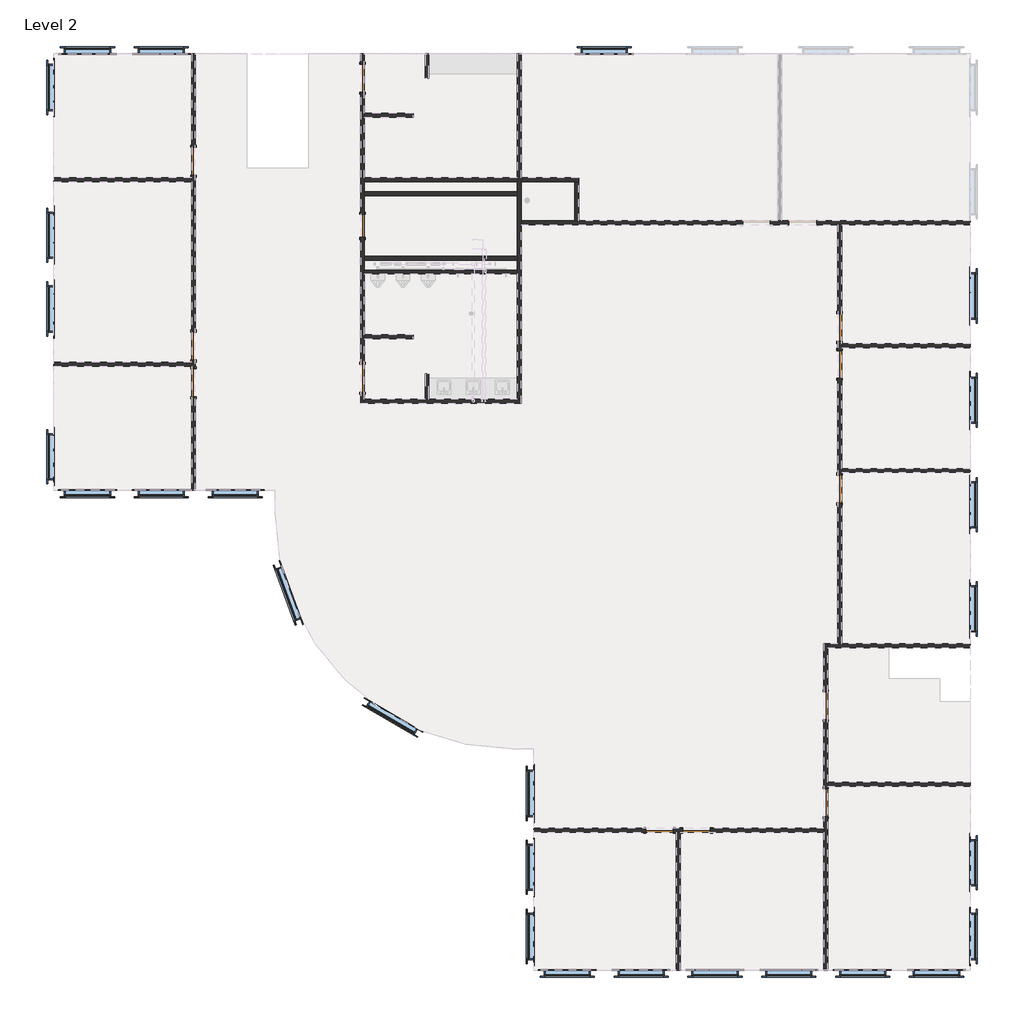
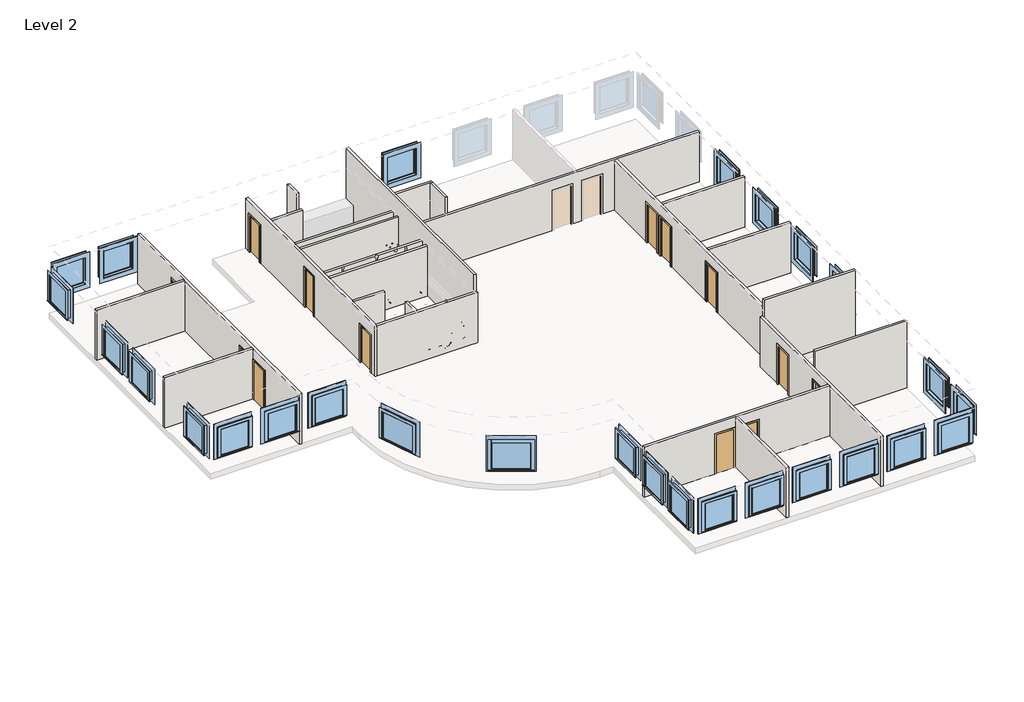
# One storey, part 1 of 5: 27 windows, 25 walls, 13 doors.
"""IFC4 building model written with IfcOpenShell, lengths in millimetres."""

from ifc_helpers import new_model, si_unit, frame, origin, place, context, project, spatial, polyline, outline, extrude, faceted_brep, transform, mapped, element, save
from components import door_e36758a9, door_5c18bfee, door_bc81e0a2, door_a1797ceb, door_a3eb833a, fixed_51c72f20, fixed_edddcce4, fixed_fbb7a90c

model = new_model("IFC4")

# Units and contexts
model_context = context("Model", 3, world=origin())
ifc_project = project(units=[si_unit("LENGTHUNIT", "METRE", prefix="MILLI")], contexts=[model_context])

# Site, building, storey
site = spatial("IfcSite", under=ifc_project)
building = spatial("IfcBuilding", under=site)
storey = spatial("IfcBuildingStorey", under=building, Name="Level 2", Elevation=3657.6)

# Doors
placement = place(None, origin())
door_shape = door_e36758a9(model_context)
element("IfcDoor", 1, ObjectType="Sgl Flush : 30\" x 84\"", at=placement, inside=storey, context=model_context, shape_type="MappedRepresentation", body=[
    mapped(door_shape, transform((5292.7157496, 9301.6099268, 3657.6), x_axis=(0.0, 1.0, 0.0), y_axis=(-1.0, 0.0, 0.0), z_axis=(0.0, 0.0, 1.0))),
])
door_2_shape = door_5c18bfee(model_context)
element("IfcDoor", 2, ObjectType="Sgl Flush : 36\" x 80\"", at=placement, inside=storey, context=model_context, shape_type="MappedRepresentation", body=[
    mapped(door_2_shape, transform((5292.7157496, 14178.4099268, 3657.6), x_axis=(0.0, 1.0, 0.0), y_axis=(-1.0, 0.0, 0.0), z_axis=(0.0, 0.0, 1.0))),
])
door_3_shape = door_bc81e0a2(model_context)
element("IfcDoor", 3, ObjectType="Sgl Flush : 36\" x 80\"", at=placement, inside=storey, context=model_context, shape_type="MappedRepresentation", body=[
    mapped(door_3_shape, transform((5292.7157496, 4272.4099268, 3657.6), x_axis=(0.0, -1.0, 0.0), y_axis=(1.0, 0.0, 0.0), z_axis=(0.0, 0.0, 1.0))),
])
door_4_shape = door_a1797ceb(model_context)
element("IfcDoor", 4, ObjectType="Sgl Flush : 36\" x 84\"", at=placement, inside=storey, context=model_context, shape_type="MappedRepresentation", body=[
    mapped(door_4_shape, transform((-284.1717504, 4120.0099268, 3657.6), x_axis=(0.0, 1.0, 0.0), y_axis=(-1.0, 0.0, 0.0), z_axis=(0.0, 0.0, 1.0))),
])
element("IfcDoor", 5, ObjectType="Sgl Flush : 36\" x 84\"", at=placement, inside=storey, context=model_context, shape_type="MappedRepresentation", body=[
    mapped(door_4_shape, transform((16329.0157496, -10662.7900732, 3657.6), x_axis=(-1.0, 0.0, 0.0), y_axis=(0.0, -1.0, 0.0), z_axis=(0.0, 0.0, 1.0))),
])
element("IfcDoor", 6, ObjectType="Sgl Flush : 36\" x 84\"", at=placement, inside=storey, context=model_context, shape_type="MappedRepresentation", body=[
    mapped(door_4_shape, transform((20596.2157496, -6547.9900732, 3657.6), x_axis=(0.0, -1.0, 0.0), y_axis=(1.0, 0.0, 0.0), z_axis=(0.0, 0.0, 1.0))),
])
element("IfcDoor", 7, ObjectType="Sgl Flush : 36\" x 84\"", at=placement, inside=storey, context=model_context, shape_type="MappedRepresentation", body=[
    mapped(door_4_shape, transform((21053.4157496, 5948.8099268, 3657.6), x_axis=(0.0, -1.0, 0.0), y_axis=(1.0, 0.0, 0.0), z_axis=(0.0, 0.0, 1.0))),
])
door_5_shape = door_a3eb833a(model_context)
element("IfcDoor", 8, ObjectType="Sgl Flush : 36\" x 84\"", at=placement, inside=storey, context=model_context, shape_type="MappedRepresentation", body=[
    mapped(door_5_shape, transform((-284.1717504, 11435.2099268, 3657.6), x_axis=(0.0, -1.0, 0.0), y_axis=(1.0, 0.0, 0.0), z_axis=(0.0, 0.0, 1.0))),
])
element("IfcDoor", 9, ObjectType="Sgl Flush : 36\" x 84\"", at=placement, inside=storey, context=model_context, shape_type="MappedRepresentation", body=[
    mapped(door_5_shape, transform((-284.1717504, 5339.2099268, 3657.6), x_axis=(0.0, -1.0, 0.0), y_axis=(1.0, 0.0, 0.0), z_axis=(0.0, 0.0, 1.0))),
])
element("IfcDoor", 10, ObjectType="Sgl Flush : 36\" x 84\"", at=placement, inside=storey, context=model_context, shape_type="MappedRepresentation", body=[
    mapped(door_5_shape, transform((15109.8157496, -10662.7900732, 3657.6), x_axis=(1.0, 0.0, 0.0), y_axis=(0.0, 1.0, 0.0), z_axis=(0.0, 0.0, 1.0))),
])
element("IfcDoor", 11, ObjectType="Sgl Flush : 36\" x 84\"", at=placement, inside=storey, context=model_context, shape_type="MappedRepresentation", body=[
    mapped(door_5_shape, transform((20596.2157496, -9748.3900732, 3657.6), x_axis=(0.0, 1.0, 0.0), y_axis=(-1.0, 0.0, 0.0), z_axis=(0.0, 0.0, 1.0))),
])
element("IfcDoor", 12, ObjectType="Sgl Flush : 36\" x 84\"", at=placement, inside=storey, context=model_context, shape_type="MappedRepresentation", body=[
    mapped(door_5_shape, transform((21053.4157496, 614.8099268, 3657.6), x_axis=(0.0, 1.0, 0.0), y_axis=(-1.0, 0.0, 0.0), z_axis=(0.0, 0.0, 1.0))),
])
element("IfcDoor", 13, ObjectType="Sgl Flush : 36\" x 84\"", at=placement, inside=storey, context=model_context, shape_type="MappedRepresentation", body=[
    mapped(door_5_shape, transform((21053.4157496, 4729.6099268, 3657.6), x_axis=(0.0, 1.0, 0.0), y_axis=(-1.0, 0.0, 0.0), z_axis=(0.0, 0.0, 1.0))),
])

# Walls
element("IfcWall", 14, ObjectType="Interior - 5\" Partition (2-hr)", at=placement, inside=storey, context=model_context, shape_type="Brep", body=[
    faceted_brep([(-347.6717504, 4882.0099268, 3657.6), (-347.6717504, 4793.1099268, 3657.6), (-347.6717504, 4666.1099268, 3657.6), (-347.6717504, 4577.2099268, 3657.6), (-347.6717504, 4577.2099268, 5791.2), (-347.6717504, 3662.8099268, 5791.2), (-347.6717504, 3662.8099268, 3657.6), (-347.6717504, 564.0099268, 3657.6), (-347.6717504, 564.0099268, 6400.8), (-347.6717504, 4666.1099268, 6400.8), (-347.6717504, 4793.1099268, 6400.8), (-347.6717504, 10762.1099268, 6400.8), (-347.6717504, 10889.1099268, 6400.8), (-347.6717504, 14991.2099268, 6400.8), (-347.6717504, 14991.2099268, 3657.6), (-347.6717504, 11892.4099268, 3657.6), (-347.6717504, 11892.4099268, 5791.2), (-347.6717504, 10978.0099268, 5791.2), (-347.6717504, 10978.0099268, 3657.6), (-347.6717504, 10889.1099268, 3657.6), (-347.6717504, 10762.1099268, 3657.6), (-347.6717504, 5796.4099268, 3657.6), (-347.6717504, 5796.4099268, 5791.2), (-347.6717504, 4882.0099268, 5791.2), (-220.6717504, 4577.2099268, 5791.2), (-220.6717504, 4577.2099268, 3657.6), (-220.6717504, 4882.0099268, 3657.6), (-220.6717504, 4882.0099268, 5791.2), (-220.6717504, 5796.4099268, 5791.2), (-220.6717504, 5796.4099268, 3657.6), (-220.6717504, 10978.0099268, 3657.6), (-220.6717504, 10978.0099268, 5791.2), (-220.6717504, 11892.4099268, 5791.2), (-220.6717504, 11892.4099268, 3657.6), (-220.6717504, 14991.2099268, 3657.6), (-220.6717504, 14991.2099268, 6400.8), (-220.6717504, 564.0099268, 6400.8), (-220.6717504, 564.0099268, 3657.6), (-220.6717504, 3662.8099268, 3657.6), (-220.6717504, 3662.8099268, 5791.2)], [[[0, 1, 2, 3, 4, 5, 6, 7, 8, 9, 10, 11, 12, 13, 14, 15, 16, 17, 18, 19, 20, 21, 22, 23]], [[24, 25, 26, 27, 28, 29, 30, 31, 32, 33, 34, 35, 36, 37, 38, 39]], [[26, 25, 3, 2, 1, 0]], [[15, 14, 34, 33]], [[21, 20, 19, 18, 30, 29]], [[38, 37, 7, 6]], [[13, 12, 11, 10, 9, 8, 36, 35]], [[14, 13, 35, 34]], [[8, 7, 37, 36]], [[31, 30, 18, 17]], [[32, 31, 17, 16]], [[33, 32, 16, 15]], [[27, 26, 0, 23]], [[28, 27, 23, 22]], [[29, 28, 22, 21]], [[4, 3, 25, 24]], [[5, 4, 24, 39]], [[6, 5, 39, 38]]]),
])
element("IfcWall", 15, ObjectType="Interior - 5\" Partition (2-hr)", at=placement, inside=storey, context=model_context, shape_type="SweptSolid", body=[
    extrude(outline(polyline([(-4905.3842504, 10889.1099268), (-347.6717504, 10889.1099268), (-347.6717504, 10762.1099268), (-4905.3842504, 10762.1099268), (-4905.3842504, 10889.1099268)])), frame((0.0, 0.0, 3657.6), z_axis=(0.0, 0.0, 1.0), x_axis=(1.0, 0.0, 0.0)), (0.0, 0.0, 1.0), 2743.2),
])
element("IfcWall", 16, ObjectType="Interior - 5\" Partition (2-hr)", at=placement, inside=storey, context=model_context, shape_type="SweptSolid", body=[
    extrude(outline(polyline([(-4905.3842504, 4793.1099268), (-347.6717504, 4793.1099268), (-347.6717504, 4666.1099268), (-4905.3842504, 4666.1099268), (-4905.3842504, 4793.1099268)])), frame((0.0, 0.0, 3657.6), z_axis=(0.0, 0.0, 1.0), x_axis=(1.0, 0.0, 0.0)), (0.0, 0.0, 1.0), 2743.2),
])
element("IfcWall", 17, ObjectType="Interior - 5\" Partition (2-hr)", at=placement, inside=storey, context=model_context, shape_type="Brep", body=[
    faceted_brep([(5229.2157496, 3815.2099268, 5689.6), (5229.2157496, 3815.2099268, 3657.6), (5229.2157496, 3446.9099268, 3657.6), (5229.2157496, 3446.9099268, 6400.8), (5229.2157496, 14991.2099268, 6400.8), (5229.2157496, 14991.2099268, 3657.6), (5229.2157496, 14635.6099268, 3657.6), (5229.2157496, 14635.6099268, 5689.6), (5229.2157496, 13721.2099268, 5689.6), (5229.2157496, 13721.2099268, 3657.6), (5229.2157496, 9682.6099268, 3657.6), (5229.2157496, 9682.6099268, 5791.2), (5229.2157496, 8920.6099268, 5791.2), (5229.2157496, 8920.6099268, 3657.6), (5229.2157496, 4729.6099268, 3657.6), (5229.2157496, 4729.6099268, 5689.6), (5356.2157496, 3446.9099268, 3657.6), (5356.2157496, 3573.9099268, 3657.6), (5356.2157496, 3815.2099268, 3657.6), (5356.2157496, 3815.2099268, 5689.6), (5356.2157496, 4729.6099268, 5689.6), (5356.2157496, 4729.6099268, 3657.6), (5356.2157496, 5580.5099268, 3657.6), (5356.2157496, 5707.5099268, 3657.6), (5356.2157496, 7714.1099268, 3657.6), (5356.2157496, 7841.1099268, 3657.6), (5356.2157496, 8171.3099268, 3657.6), (5356.2157496, 8298.3099268, 3657.6), (5356.2157496, 8920.6099268, 3657.6), (5356.2157496, 8920.6099268, 5791.2), (5356.2157496, 9682.6099268, 5791.2), (5356.2157496, 9682.6099268, 3657.6), (5356.2157496, 10304.9099268, 3657.6), (5356.2157496, 10431.9099268, 3657.6), (5356.2157496, 10762.1099268, 3657.6), (5356.2157496, 10889.1099268, 3657.6), (5356.2157496, 12895.7099268, 3657.6), (5356.2157496, 13022.7099268, 3657.6), (5356.2157496, 13721.2099268, 3657.6), (5356.2157496, 13721.2099268, 5689.6), (5356.2157496, 14635.6099268, 5689.6), (5356.2157496, 14635.6099268, 3657.6), (5356.2157496, 14991.2099268, 3657.6), (5356.2157496, 14991.2099268, 6400.8), (5356.2157496, 13022.7099268, 6400.8), (5356.2157496, 12895.7099268, 6400.8), (5356.2157496, 10889.1099268, 6400.8), (5356.2157496, 10762.1099268, 6400.8), (5356.2157496, 10431.9099268, 6400.8), (5356.2157496, 10304.9099268, 6400.8), (5356.2157496, 8298.3099268, 6400.8), (5356.2157496, 8171.3099268, 6400.8), (5356.2157496, 7841.1099268, 6400.8), (5356.2157496, 7714.1099268, 6400.8), (5356.2157496, 5707.5099268, 6400.8), (5356.2157496, 5580.5099268, 6400.8), (5356.2157496, 3573.9099268, 6400.8), (5356.2157496, 3446.9099268, 6400.8)], [[[0, 1, 2, 3, 4, 5, 6, 7, 8, 9, 10, 11, 12, 13, 14, 15]], [[16, 17, 18, 19, 20, 21, 22, 23, 24, 25, 26, 27, 28, 29, 30, 31, 32, 33, 34, 35, 36, 37, 38, 39, 40, 41, 42, 43, 44, 45, 46, 47, 48, 49, 50, 51, 52, 53, 54, 55, 56, 57]], [[42, 41, 6, 5]], [[2, 1, 18, 17, 16]], [[38, 37, 36, 35, 34, 33, 32, 31, 10, 9]], [[14, 13, 28, 27, 26, 25, 24, 23, 22, 21]], [[4, 3, 57, 56, 55, 54, 53, 52, 51, 50, 49, 48, 47, 46, 45, 44, 43]], [[3, 2, 16, 57]], [[5, 4, 43, 42]], [[11, 10, 31, 30]], [[12, 11, 30, 29]], [[13, 12, 29, 28]], [[7, 6, 41, 40]], [[8, 7, 40, 39]], [[9, 8, 39, 38]], [[19, 18, 1, 0]], [[20, 19, 0, 15]], [[21, 20, 15, 14]]]),
])
element("IfcWall", 18, ObjectType="Interior - 5\" Partition (2-hr)", at=placement, inside=storey, context=model_context, shape_type="Brep", body=[
    faceted_brep([(5356.2157496, 3446.9099268, 3657.6), (10537.8157496, 3446.9099268, 3657.6), (10537.8157496, 3446.9099268, 6400.8), (5356.2157496, 3446.9099268, 6400.8), (5356.2157496, 3573.9099268, 3657.6), (5356.2157496, 3573.9099268, 6400.8), (7362.8157496, 3573.9099268, 6400.8), (7489.8157496, 3573.9099268, 6400.8), (10537.8157496, 3573.9099268, 6400.8), (10537.8157496, 3573.9099268, 3657.6), (10410.8157496, 3573.9099268, 3657.6), (7489.8157496, 3573.9099268, 3657.6), (7362.8157496, 3573.9099268, 3657.6)], [[[0, 1, 2, 3]], [[4, 5, 6, 7, 8, 9, 10, 11, 12]], [[1, 0, 4, 12, 11, 10, 9]], [[3, 2, 8, 7, 6, 5]], [[2, 1, 9, 8]], [[0, 3, 5, 4]]]),
])
element("IfcWall", 19, ObjectType="Interior - 5\" Partition (2-hr)", at=placement, inside=storey, context=model_context, shape_type="Brep", body=[
    faceted_brep([(10537.8157496, 3573.9099268, 3657.6), (10537.8157496, 9339.7099268, 3657.6), (10537.8157496, 9466.7099268, 3657.6), (10537.8157496, 10762.1099268, 3657.6), (10537.8157496, 10889.1099268, 3657.6), (10537.8157496, 14991.2099268, 3657.6), (10537.8157496, 14991.2099268, 7315.2), (10537.8157496, 10889.1099268, 7315.2), (10537.8157496, 10762.1099268, 7315.2), (10537.8157496, 3573.9099268, 7315.2), (10537.8157496, 3573.9099268, 6400.8), (10410.8157496, 3573.9099268, 3657.6), (10410.8157496, 3573.9099268, 7315.2), (10410.8157496, 14991.2099268, 7315.2), (10410.8157496, 14991.2099268, 3657.6), (10410.8157496, 10889.1099268, 3657.6), (10410.8157496, 10762.1099268, 3657.6), (10410.8157496, 10431.9099268, 3657.6), (10410.8157496, 10304.9099268, 3657.6), (10410.8157496, 8298.3099268, 3657.6), (10410.8157496, 8171.3099268, 3657.6), (10410.8157496, 7841.1099268, 3657.6), (10410.8157496, 7714.1099268, 3657.6)], [[[0, 1, 2, 3, 4, 5, 6, 7, 8, 9, 10]], [[11, 12, 13, 14, 15, 16, 17, 18, 19, 20, 21, 22]], [[5, 4, 3, 2, 1, 0, 11, 22, 21, 20, 19, 18, 17, 16, 15, 14]], [[9, 8, 7, 6, 13, 12]], [[0, 10, 9, 12, 11]], [[6, 5, 14, 13]]]),
])
element("IfcWall", 20, ObjectType="Interior - 5\" Partition (2-hr)", at=placement, inside=storey, context=model_context, shape_type="SweptSolid", body=[
    extrude(outline(polyline([(6969.1157496, 12895.7099268), (5356.2157496, 12895.7099268), (5356.2157496, 13022.7099268), (6969.1157496, 13022.7099268), (6969.1157496, 12895.7099268)])), frame((0.0, 0.0, 3657.6), z_axis=(0.0, 0.0, 1.0), x_axis=(1.0, 0.0, 0.0)), (0.0, 0.0, 1.0), 2743.2),
])
element("IfcWall", 21, ObjectType="Interior - 5\" Partition (2-hr)", at=placement, inside=storey, context=model_context, shape_type="SweptSolid", body=[
    extrude(outline(polyline([(6969.1157496, 5580.5099268), (5356.2157496, 5580.5099268), (5356.2157496, 5707.5099268), (6969.1157496, 5707.5099268), (6969.1157496, 5580.5099268)])), frame((0.0, 0.0, 3657.6), z_axis=(0.0, 0.0, 1.0), x_axis=(1.0, 0.0, 0.0)), (0.0, 0.0, 1.0), 2743.2),
])
element("IfcWall", 22, ObjectType="Interior - 5\" Partition (2-hr)", at=placement, inside=storey, context=model_context, shape_type="SweptSolid", body=[
    extrude(outline(polyline([(10410.8157496, 7714.1099268), (5356.2157496, 7714.1099268), (5356.2157496, 7841.1099268), (10410.8157496, 7841.1099268), (10410.8157496, 7714.1099268)])), frame((0.0, 0.0, 3657.6), z_axis=(0.0, 0.0, 1.0), x_axis=(1.0, 0.0, 0.0)), (0.0, 0.0, 1.0), 2743.2),
])
element("IfcWall", 23, ObjectType="Interior - 5\" Partition (2-hr)", at=placement, inside=storey, context=model_context, shape_type="SweptSolid", body=[
    extrude(outline(polyline([(7489.8157496, 4424.8099268), (7489.8157496, 3573.9099268), (7362.8157496, 3573.9099268), (7362.8157496, 4424.8099268), (7489.8157496, 4424.8099268)])), frame((0.0, 0.0, 3657.6), z_axis=(0.0, 0.0, 1.0), x_axis=(1.0, 0.0, 0.0)), (0.0, 0.0, 1.0), 2743.2),
])
element("IfcWall", 24, ObjectType="Interior - 5\" Partition (2-hr)", at=placement, inside=storey, context=model_context, shape_type="SweptSolid", body=[
    extrude(outline(polyline([(7362.8157496, 14178.4099268), (7362.8157496, 14991.2099268), (7489.8157496, 14991.2099268), (7489.8157496, 14178.4099268), (7362.8157496, 14178.4099268)])), frame((0.0, 0.0, 3657.6), z_axis=(0.0, 0.0, 1.0), x_axis=(1.0, 0.0, 0.0)), (0.0, 0.0, 1.0), 2743.2),
])
element("IfcWall", 25, ObjectType="Interior - 5\" Partition (2-hr)", at=placement, inside=storey, context=model_context, shape_type="SweptSolid", body=[
    extrude(outline(polyline([(10410.8157496, 10762.1099268), (5356.2157496, 10762.1099268), (5356.2157496, 10889.1099268), (10410.8157496, 10889.1099268), (10410.8157496, 10762.1099268)])), frame((0.0, 0.0, 3657.6), z_axis=(0.0, 0.0, 1.0), x_axis=(1.0, 0.0, 0.0)), (0.0, 0.0, 1.0), 2743.2),
])
element("IfcWall", 26, ObjectType="Interior - 5\" Partition (2-hr)", at=placement, inside=storey, context=model_context, shape_type="Brep", body=[
    faceted_brep([(18767.4157496, 9339.7099268, 5791.2), (18767.4157496, 9339.7099268, 3657.6), (19377.0157496, 9339.7099268, 3657.6), (19377.0157496, 9339.7099268, 5791.2), (20291.4157496, 9339.7099268, 5791.2), (20291.4157496, 9339.7099268, 3657.6), (20989.9157496, 9339.7099268, 3657.6), (21116.9157496, 9339.7099268, 3657.6), (25371.4157496, 9339.7099268, 3657.6), (25371.4157496, 9339.7099268, 6400.8), (21116.9157496, 9339.7099268, 6400.8), (20989.9157496, 9339.7099268, 6400.8), (10537.8157496, 9339.7099268, 6400.8), (10537.8157496, 9339.7099268, 3657.6), (17853.0157496, 9339.7099268, 3657.6), (17853.0157496, 9339.7099268, 5791.2), (19377.0157496, 9466.7099268, 3657.6), (19135.7157496, 9466.7099268, 3657.6), (19008.7157496, 9466.7099268, 3657.6), (18767.4157496, 9466.7099268, 3657.6), (18767.4157496, 9466.7099268, 5791.2), (17853.0157496, 9466.7099268, 5791.2), (17853.0157496, 9466.7099268, 3657.6), (12430.1157496, 9466.7099268, 3657.6), (12303.1157496, 9466.7099268, 3657.6), (10537.8157496, 9466.7099268, 3657.6), (10537.8157496, 9466.7099268, 6400.8), (19008.7157496, 9466.7099268, 6400.8), (19135.7157496, 9466.7099268, 6400.8), (25371.4157496, 9466.7099268, 6400.8), (25371.4157496, 9466.7099268, 3657.6), (20291.4157496, 9466.7099268, 3657.6), (20291.4157496, 9466.7099268, 5791.2), (19377.0157496, 9466.7099268, 5791.2)], [[[0, 1, 2, 3, 4, 5, 6, 7, 8, 9, 10, 11, 12, 13, 14, 15]], [[16, 17, 18, 19, 20, 21, 22, 23, 24, 25, 26, 27, 28, 29, 30, 31, 32, 33]], [[2, 1, 19, 18, 17, 16]], [[31, 30, 8, 7, 6, 5]], [[14, 13, 25, 24, 23, 22]], [[12, 11, 10, 9, 29, 28, 27, 26]], [[13, 12, 26, 25]], [[9, 8, 30, 29]], [[3, 2, 16, 33]], [[4, 3, 33, 32]], [[5, 4, 32, 31]], [[20, 19, 1, 0]], [[21, 20, 0, 15]], [[22, 21, 15, 14]]]),
])
element("IfcWall", 27, ObjectType="Interior - 5\" Partition (2-hr)", at=placement, inside=storey, context=model_context, shape_type="Brep", body=[
    faceted_brep([(20989.9157496, 5491.6099268, 5791.2), (20989.9157496, 5491.6099268, 3657.6), (20989.9157496, 5186.8099268, 3657.6), (20989.9157496, 5186.8099268, 5791.2), (20989.9157496, 4272.4099268, 5791.2), (20989.9157496, 4272.4099268, 3657.6), (20989.9157496, 1072.0099268, 3657.6), (20989.9157496, 1072.0099268, 5791.2), (20989.9157496, 157.6099268, 5791.2), (20989.9157496, 157.6099268, 3657.6), (20989.9157496, -4503.2900732, 3657.6), (20989.9157496, -4503.2900732, 6400.8), (20989.9157496, 9339.7099268, 6400.8), (20989.9157496, 9339.7099268, 3657.6), (20989.9157496, 6406.0099268, 3657.6), (20989.9157496, 6406.0099268, 5791.2), (21116.9157496, 5186.8099268, 3657.6), (21116.9157496, 5275.7099268, 3657.6), (21116.9157496, 5402.7099268, 3657.6), (21116.9157496, 5491.6099268, 3657.6), (21116.9157496, 5491.6099268, 5791.2), (21116.9157496, 6406.0099268, 5791.2), (21116.9157496, 6406.0099268, 3657.6), (21116.9157496, 9339.7099268, 3657.6), (21116.9157496, 9339.7099268, 6400.8), (21116.9157496, 5402.7099268, 6400.8), (21116.9157496, 5275.7099268, 6400.8), (21116.9157496, 1287.9099268, 6400.8), (21116.9157496, 1160.9099268, 6400.8), (21116.9157496, -4503.2900732, 6400.8), (21116.9157496, -4503.2900732, 3657.6), (21116.9157496, 157.6099268, 3657.6), (21116.9157496, 157.6099268, 5791.2), (21116.9157496, 1072.0099268, 5791.2), (21116.9157496, 1072.0099268, 3657.6), (21116.9157496, 1160.9099268, 3657.6), (21116.9157496, 1287.9099268, 3657.6), (21116.9157496, 4272.4099268, 3657.6), (21116.9157496, 4272.4099268, 5791.2), (21116.9157496, 5186.8099268, 5791.2)], [[[0, 1, 2, 3, 4, 5, 6, 7, 8, 9, 10, 11, 12, 13, 14, 15]], [[16, 17, 18, 19, 20, 21, 22, 23, 24, 25, 26, 27, 28, 29, 30, 31, 32, 33, 34, 35, 36, 37, 38, 39]], [[2, 1, 19, 18, 17, 16]], [[31, 30, 10, 9]], [[37, 36, 35, 34, 6, 5]], [[14, 13, 23, 22]], [[12, 11, 29, 28, 27, 26, 25, 24]], [[13, 12, 24, 23]], [[11, 10, 30, 29]], [[7, 6, 34, 33]], [[8, 7, 33, 32]], [[9, 8, 32, 31]], [[3, 2, 16, 39]], [[4, 3, 39, 38]], [[5, 4, 38, 37]], [[20, 19, 1, 0]], [[21, 20, 0, 15]], [[22, 21, 15, 14]]]),
])
element("IfcWall", 28, ObjectType="Interior - 5\" Partition (2-hr)", at=placement, inside=storey, context=model_context, shape_type="SweptSolid", body=[
    extrude(outline(polyline([(25371.4157496, 5275.7099268), (21116.9157496, 5275.7099268), (21116.9157496, 5402.7099268), (25371.4157496, 5402.7099268), (25371.4157496, 5275.7099268)])), frame((0.0, 0.0, 3657.6), z_axis=(0.0, 0.0, 1.0), x_axis=(1.0, 0.0, 0.0)), (0.0, 0.0, 1.0), 2743.2),
])
element("IfcWall", 29, ObjectType="Interior - 5\" Partition (2-hr)", at=placement, inside=storey, context=model_context, shape_type="SweptSolid", body=[
    extrude(outline(polyline([(25371.4157496, 1160.9099268), (21116.9157496, 1160.9099268), (21116.9157496, 1287.9099268), (25371.4157496, 1287.9099268), (25371.4157496, 1160.9099268)])), frame((0.0, 0.0, 3657.6), z_axis=(0.0, 0.0, 1.0), x_axis=(1.0, 0.0, 0.0)), (0.0, 0.0, 1.0), 2743.2),
])
element("IfcWall", 30, ObjectType="Interior - 5\" Partition (2-hr)", at=placement, inside=storey, context=model_context, shape_type="Brep", body=[
    faceted_brep([(20659.7157496, -4630.2900732, 3657.6), (25371.4157496, -4630.2900732, 3657.6), (25371.4157496, -4630.2900732, 7315.2), (20659.7157496, -4630.2900732, 7315.2), (20659.7157496, -4503.2900732, 3657.6), (20659.7157496, -4503.2900732, 6400.8), (20659.7157496, -4503.2900732, 7315.2), (25371.4157496, -4503.2900732, 7315.2), (25371.4157496, -4503.2900732, 3657.6), (21116.9157496, -4503.2900732, 3657.6), (20989.9157496, -4503.2900732, 3657.6)], [[[0, 1, 2, 3]], [[4, 5, 6, 7, 8, 9, 10]], [[1, 0, 4, 10, 9, 8]], [[3, 2, 7, 6]], [[2, 1, 8, 7]], [[0, 3, 6, 5, 4]]]),
])
element("IfcWall", 31, ObjectType="Interior - 5\" Partition (2-hr)", at=placement, inside=storey, context=model_context, shape_type="SweptSolid", body=[
    extrude(outline(polyline([(25371.4157496, -9202.2900732), (20659.7157496, -9202.2900732), (20659.7157496, -9075.2900732), (25371.4157496, -9075.2900732), (25371.4157496, -9202.2900732)])), frame((0.0, 0.0, 3657.6), z_axis=(0.0, 0.0, 1.0), x_axis=(1.0, 0.0, 0.0)), (0.0, 0.0, 1.0), 3657.6),
])
element("IfcWall", 32, ObjectType="Interior - 5\" Partition (2-hr)", at=placement, inside=storey, context=model_context, shape_type="Brep", body=[
    faceted_brep([(20532.7157496, -7005.1900732, 5791.2), (20532.7157496, -7005.1900732, 3657.6), (20532.7157496, -9291.1900732, 3657.6), (20532.7157496, -9291.1900732, 5791.2), (20532.7157496, -10205.5900732, 5791.2), (20532.7157496, -10205.5900732, 3657.6), (20532.7157496, -10599.2900732, 3657.6), (20532.7157496, -10726.2900732, 3657.6), (20532.7157496, -15285.5900732, 3657.6), (20532.7157496, -15285.5900732, 6400.8), (20532.7157496, -10726.2900732, 6400.8), (20532.7157496, -10599.2900732, 6400.8), (20532.7157496, -4503.2900732, 6400.8), (20532.7157496, -4503.2900732, 3657.6), (20532.7157496, -6090.7900732, 3657.6), (20532.7157496, -6090.7900732, 5791.2), (20659.7157496, -9291.1900732, 3657.6), (20659.7157496, -9202.2900732, 3657.6), (20659.7157496, -9075.2900732, 3657.6), (20659.7157496, -7005.1900732, 3657.6), (20659.7157496, -7005.1900732, 5791.2), (20659.7157496, -6090.7900732, 5791.2), (20659.7157496, -6090.7900732, 3657.6), (20659.7157496, -4630.2900732, 3657.6), (20659.7157496, -4503.2900732, 3657.6), (20659.7157496, -4503.2900732, 6400.8), (20659.7157496, -15285.5900732, 6400.8), (20659.7157496, -15285.5900732, 3657.6), (20659.7157496, -10205.5900732, 3657.6), (20659.7157496, -10205.5900732, 5791.2), (20659.7157496, -9291.1900732, 5791.2)], [[[0, 1, 2, 3, 4, 5, 6, 7, 8, 9, 10, 11, 12, 13, 14, 15]], [[16, 17, 18, 19, 20, 21, 22, 23, 24, 25, 26, 27, 28, 29, 30]], [[2, 1, 19, 18, 17, 16]], [[28, 27, 8, 7, 6, 5]], [[14, 13, 24, 23, 22]], [[12, 11, 10, 9, 26, 25]], [[13, 12, 25, 24]], [[9, 8, 27, 26]], [[3, 2, 16, 30]], [[4, 3, 30, 29]], [[5, 4, 29, 28]], [[20, 19, 1, 0]], [[21, 20, 0, 15]], [[22, 21, 15, 14]]]),
])
element("IfcWall", 33, ObjectType="Interior - 5\" Partition (2-hr)", at=placement, inside=storey, context=model_context, shape_type="Brep", body=[
    faceted_brep([(15567.0157496, -10726.2900732, 3657.6), (15655.9157496, -10726.2900732, 3657.6), (15782.9157496, -10726.2900732, 3657.6), (15871.8157496, -10726.2900732, 3657.6), (15871.8157496, -10726.2900732, 5791.2), (16786.2157496, -10726.2900732, 5791.2), (16786.2157496, -10726.2900732, 3657.6), (20532.7157496, -10726.2900732, 3657.6), (20532.7157496, -10726.2900732, 6400.8), (15782.9157496, -10726.2900732, 6400.8), (15655.9157496, -10726.2900732, 6400.8), (10944.2157496, -10726.2900732, 6400.8), (10944.2157496, -10726.2900732, 3657.6), (14652.6157496, -10726.2900732, 3657.6), (14652.6157496, -10726.2900732, 5791.2), (15567.0157496, -10726.2900732, 5791.2), (15871.8157496, -10599.2900732, 5791.2), (15871.8157496, -10599.2900732, 3657.6), (15567.0157496, -10599.2900732, 3657.6), (15567.0157496, -10599.2900732, 5791.2), (14652.6157496, -10599.2900732, 5791.2), (14652.6157496, -10599.2900732, 3657.6), (10944.2157496, -10599.2900732, 3657.6), (10944.2157496, -10599.2900732, 6400.8), (20532.7157496, -10599.2900732, 6400.8), (20532.7157496, -10599.2900732, 3657.6), (16786.2157496, -10599.2900732, 3657.6), (16786.2157496, -10599.2900732, 5791.2)], [[[0, 1, 2, 3, 4, 5, 6, 7, 8, 9, 10, 11, 12, 13, 14, 15]], [[16, 17, 18, 19, 20, 21, 22, 23, 24, 25, 26, 27]], [[18, 17, 3, 2, 1, 0]], [[13, 12, 22, 21]], [[26, 25, 7, 6]], [[11, 10, 9, 8, 24, 23]], [[12, 11, 23, 22]], [[8, 7, 25, 24]], [[19, 18, 0, 15]], [[20, 19, 15, 14]], [[21, 20, 14, 13]], [[4, 3, 17, 16]], [[5, 4, 16, 27]], [[6, 5, 27, 26]]]),
])
element("IfcWall", 34, ObjectType="Interior - 5\" Partition (2-hr)", at=placement, inside=storey, context=model_context, shape_type="SweptSolid", body=[
    extrude(outline(polyline([(15655.9157496, -15285.5900732), (15655.9157496, -10726.2900732), (15782.9157496, -10726.2900732), (15782.9157496, -15285.5900732), (15655.9157496, -15285.5900732)])), frame((0.0, 0.0, 3657.6), z_axis=(0.0, 0.0, 1.0), x_axis=(1.0, 0.0, 0.0)), (0.0, 0.0, 1.0), 2743.2),
])
element("IfcWall", 35, ObjectType="Interior - 5\" Partition (2-hr)", at=placement, inside=storey, context=model_context, shape_type="Brep", body=[
    faceted_brep([(10537.8157496, 10762.1099268, 3657.6), (12303.1157496, 10762.1099268, 3657.6), (12430.1157496, 10762.1099268, 3657.6), (12430.1157496, 10762.1099268, 7315.2), (12303.1157496, 10762.1099268, 7315.2), (10537.8157496, 10762.1099268, 7315.2), (10537.8157496, 10889.1099268, 3657.6), (10537.8157496, 10889.1099268, 7315.2), (12430.1157496, 10889.1099268, 7315.2), (12430.1157496, 10889.1099268, 3657.6)], [[[0, 1, 2, 3, 4, 5]], [[6, 7, 8, 9]], [[2, 1, 0, 6, 9]], [[3, 2, 9, 8]], [[0, 5, 7, 6]], [[5, 4, 3, 8, 7]]]),
])
element("IfcWall", 36, ObjectType="Interior - 5\" Partition (2-hr)", at=placement, inside=storey, context=model_context, shape_type="SweptSolid", body=[
    extrude(outline(polyline([(12303.1157496, 9466.7099268), (12303.1157496, 10762.1099268), (12430.1157496, 10762.1099268), (12430.1157496, 9466.7099268), (12303.1157496, 9466.7099268)])), frame((0.0, 0.0, 3657.6), z_axis=(0.0, 0.0, 1.0), x_axis=(1.0, 0.0, 0.0)), (0.0, 0.0, 1.0), 3657.6),
])
element("IfcWall", 37, ObjectType="Interior - 5\" Partition (2-hr)", at=placement, inside=storey, context=model_context, shape_type="SweptSolid", body=[
    extrude(outline(polyline([(10410.8157496, 10304.9099268), (5356.2157496, 10304.9099268), (5356.2157496, 10431.9099268), (10410.8157496, 10431.9099268), (10410.8157496, 10304.9099268)])), frame((0.0, 0.0, 3657.6), z_axis=(0.0, 0.0, 1.0), x_axis=(1.0, 0.0, 0.0)), (0.0, 0.0, 1.0), 2743.2),
])
element("IfcWall", 38, ObjectType="Interior - 5\" Partition (2-hr)", at=placement, inside=storey, context=model_context, shape_type="SweptSolid", body=[
    extrude(outline(polyline([(10410.8157496, 8171.3099268), (5356.2157496, 8171.3099268), (5356.2157496, 8298.3099268), (10410.8157496, 8298.3099268), (10410.8157496, 8171.3099268)])), frame((0.0, 0.0, 3657.6), z_axis=(0.0, 0.0, 1.0), x_axis=(1.0, 0.0, 0.0)), (0.0, 0.0, 1.0), 2743.2),
])

# Windows
fixed_shape = fixed_51c72f20(model_context)
element("IfcWindow", 39, ObjectType="Fixed : 60\"w x 60\"h", at=placement, inside=storey, context=model_context, shape_type="MappedRepresentation", body=[
    mapped(fixed_shape, transform((-5006.9842504, 8958.7099268, 3657.6), x_axis=(0.0, -1.0, 0.0), y_axis=(1.0, 0.0, 0.0), z_axis=(0.0, 0.0, 1.0))),
])
element("IfcWindow", 40, ObjectType="Fixed : 60\"w x 60\"h", at=placement, inside=storey, context=model_context, shape_type="MappedRepresentation", body=[
    mapped(fixed_shape, transform((10842.6157496, -9481.6900732, 3657.6), x_axis=(0.0, -1.0, 0.0), y_axis=(1.0, 0.0, 0.0), z_axis=(0.0, 0.0, 1.0))),
])
fixed_2_shape = fixed_edddcce4(model_context)
element("IfcWindow", 41, ObjectType="Fixed : 60\"w x 60\"h", at=placement, inside=storey, context=model_context, shape_type="MappedRepresentation", body=[
    mapped(fixed_2_shape, transform((-3749.6842504, 15092.8099268, 3657.6), x_axis=(1.0, 0.0, 0.0), y_axis=(0.0, 1.0, 0.0), z_axis=(0.0, 0.0, 1.0))),
])
element("IfcWindow", 42, ObjectType="Fixed : 60\"w x 60\"h", at=placement, inside=storey, context=model_context, shape_type="MappedRepresentation", body=[
    mapped(fixed_2_shape, transform((-1311.2842504, 15092.8099268, 3657.6), x_axis=(1.0, 0.0, 0.0), y_axis=(0.0, 1.0, 0.0), z_axis=(0.0, 0.0, 1.0))),
])
element("IfcWindow", 43, ObjectType="Fixed : 60\"w x 60\"h", at=placement, inside=storey, context=model_context, shape_type="MappedRepresentation", body=[
    mapped(fixed_2_shape, transform((13319.1157496, 15092.8099268, 3657.6), x_axis=(1.0, 0.0, 0.0), y_axis=(0.0, 1.0, 0.0), z_axis=(0.0, 0.0, 1.0))),
])
element("IfcWindow", 44, ObjectType="Fixed : 60\"w x 60\"h", at=placement, inside=storey, context=model_context, shape_type="MappedRepresentation", body=[
    mapped(fixed_2_shape, transform((25473.0157496, 6947.3474268, 3657.6), x_axis=(0.0, -1.0, 0.0), y_axis=(1.0, 0.0, 0.0), z_axis=(0.0, 0.0, 1.0))),
])
element("IfcWindow", 45, ObjectType="Fixed : 60\"w x 60\"h", at=placement, inside=storey, context=model_context, shape_type="MappedRepresentation", body=[
    mapped(fixed_2_shape, transform((25473.0157496, 3502.4724268, 3657.6), x_axis=(0.0, -1.0, 0.0), y_axis=(1.0, 0.0, 0.0), z_axis=(0.0, 0.0, 1.0))),
])
element("IfcWindow", 46, ObjectType="Fixed : 60\"w x 60\"h", at=placement, inside=storey, context=model_context, shape_type="MappedRepresentation", body=[
    mapped(fixed_2_shape, transform((25473.0157496, 58.3911768, 3657.6), x_axis=(0.0, -1.0, 0.0), y_axis=(1.0, 0.0, 0.0), z_axis=(0.0, 0.0, 1.0))),
])
element("IfcWindow", 47, ObjectType="Fixed : 60\"w x 60\"h", at=placement, inside=storey, context=model_context, shape_type="MappedRepresentation", body=[
    mapped(fixed_2_shape, transform((25473.0157496, -3385.6900732, 3657.6), x_axis=(0.0, -1.0, 0.0), y_axis=(1.0, 0.0, 0.0), z_axis=(0.0, 0.0, 1.0))),
])
element("IfcWindow", 48, ObjectType="Fixed : 60\"w x 60\"h", at=placement, inside=storey, context=model_context, shape_type="MappedRepresentation", body=[
    mapped(fixed_2_shape, transform((25473.0157496, -11767.6900732, 3657.6), x_axis=(0.0, -1.0, 0.0), y_axis=(1.0, 0.0, 0.0), z_axis=(0.0, 0.0, 1.0))),
])
element("IfcWindow", 49, ObjectType="Fixed : 60\"w x 60\"h", at=placement, inside=storey, context=model_context, shape_type="MappedRepresentation", body=[
    mapped(fixed_2_shape, transform((25473.0157496, -14206.0900732, 3657.6), x_axis=(0.0, -1.0, 0.0), y_axis=(1.0, 0.0, 0.0), z_axis=(0.0, 0.0, 1.0))),
])
element("IfcWindow", 50, ObjectType="Fixed : 60\"w x 60\"h", at=placement, inside=storey, context=model_context, shape_type="MappedRepresentation", body=[
    mapped(fixed_2_shape, transform((-5006.9842504, 13911.7099268, 3657.6), x_axis=(0.0, 1.0, 0.0), y_axis=(-1.0, 0.0, 0.0), z_axis=(0.0, 0.0, 1.0))),
])
element("IfcWindow", 51, ObjectType="Fixed : 60\"w x 60\"h", at=placement, inside=storey, context=model_context, shape_type="MappedRepresentation", body=[
    mapped(fixed_2_shape, transform((-5006.9842504, 6596.5099268, 3657.6), x_axis=(0.0, 1.0, 0.0), y_axis=(-1.0, 0.0, 0.0), z_axis=(0.0, 0.0, 1.0))),
])
element("IfcWindow", 52, ObjectType="Fixed : 60\"w x 60\"h", at=placement, inside=storey, context=model_context, shape_type="MappedRepresentation", body=[
    mapped(fixed_2_shape, transform((-5006.9842504, 1719.7099268, 3657.6), x_axis=(0.0, 1.0, 0.0), y_axis=(-1.0, 0.0, 0.0), z_axis=(0.0, 0.0, 1.0))),
])
element("IfcWindow", 53, ObjectType="Fixed : 60\"w x 60\"h", at=placement, inside=storey, context=model_context, shape_type="MappedRepresentation", body=[
    mapped(fixed_2_shape, transform((-3825.8842504, 462.4099268, 3657.6), x_axis=(-1.0, 0.0, 0.0), y_axis=(0.0, -1.0, 0.0), z_axis=(0.0, 0.0, 1.0))),
])
element("IfcWindow", 54, ObjectType="Fixed : 60\"w x 60\"h", at=placement, inside=storey, context=model_context, shape_type="MappedRepresentation", body=[
    mapped(fixed_2_shape, transform((-1387.4842504, 462.4099268, 3657.6), x_axis=(-1.0, 0.0, 0.0), y_axis=(0.0, -1.0, 0.0), z_axis=(0.0, 0.0, 1.0))),
])
element("IfcWindow", 55, ObjectType="Fixed : 60\"w x 60\"h", at=placement, inside=storey, context=model_context, shape_type="MappedRepresentation", body=[
    mapped(fixed_2_shape, transform((1050.9157496, 462.4099268, 3657.6), x_axis=(-1.0, 0.0, 0.0), y_axis=(0.0, -1.0, 0.0), z_axis=(0.0, 0.0, 1.0))),
])
element("IfcWindow", 56, ObjectType="Fixed : 60\"w x 60\"h", at=placement, inside=storey, context=model_context, shape_type="MappedRepresentation", body=[
    mapped(fixed_2_shape, transform((10842.6157496, -11843.8900732, 3657.6), x_axis=(0.0, 1.0, 0.0), y_axis=(-1.0, 0.0, 0.0), z_axis=(0.0, 0.0, 1.0))),
])
element("IfcWindow", 57, ObjectType="Fixed : 60\"w x 60\"h", at=placement, inside=storey, context=model_context, shape_type="MappedRepresentation", body=[
    mapped(fixed_2_shape, transform((10842.6157496, -14129.8900732, 3657.6), x_axis=(0.0, 1.0, 0.0), y_axis=(-1.0, 0.0, 0.0), z_axis=(0.0, 0.0, 1.0))),
])
element("IfcWindow", 58, ObjectType="Fixed : 60\"w x 60\"h", at=placement, inside=storey, context=model_context, shape_type="MappedRepresentation", body=[
    mapped(fixed_2_shape, transform((12023.7157496, -15387.1900732, 3657.6), x_axis=(-1.0, 0.0, 0.0), y_axis=(0.0, -1.0, 0.0), z_axis=(0.0, 0.0, 1.0))),
])
element("IfcWindow", 59, ObjectType="Fixed : 60\"w x 60\"h", at=placement, inside=storey, context=model_context, shape_type="MappedRepresentation", body=[
    mapped(fixed_2_shape, transform((14462.1157496, -15387.1900732, 3657.6), x_axis=(-1.0, 0.0, 0.0), y_axis=(0.0, -1.0, 0.0), z_axis=(0.0, 0.0, 1.0))),
])
element("IfcWindow", 60, ObjectType="Fixed : 60\"w x 60\"h", at=placement, inside=storey, context=model_context, shape_type="MappedRepresentation", body=[
    mapped(fixed_2_shape, transform((16900.5157496, -15387.1900732, 3657.6), x_axis=(-1.0, 0.0, 0.0), y_axis=(0.0, -1.0, 0.0), z_axis=(0.0, 0.0, 1.0))),
])
element("IfcWindow", 61, ObjectType="Fixed : 60\"w x 60\"h", at=placement, inside=storey, context=model_context, shape_type="MappedRepresentation", body=[
    mapped(fixed_2_shape, transform((19338.9157496, -15387.1900732, 3657.6), x_axis=(-1.0, 0.0, 0.0), y_axis=(0.0, -1.0, 0.0), z_axis=(0.0, 0.0, 1.0))),
])
element("IfcWindow", 62, ObjectType="Fixed : 60\"w x 60\"h", at=placement, inside=storey, context=model_context, shape_type="MappedRepresentation", body=[
    mapped(fixed_2_shape, transform((21777.3157496, -15387.1900732, 3657.6), x_axis=(-1.0, 0.0, 0.0), y_axis=(0.0, -1.0, 0.0), z_axis=(0.0, 0.0, 1.0))),
])
element("IfcWindow", 63, ObjectType="Fixed : 60\"w x 60\"h", at=placement, inside=storey, context=model_context, shape_type="MappedRepresentation", body=[
    mapped(fixed_2_shape, transform((24215.7157496, -15387.1900732, 3657.6), x_axis=(-1.0, 0.0, 0.0), y_axis=(0.0, -1.0, 0.0), z_axis=(0.0, 0.0, 1.0))),
])
fixed_3_shape = fixed_fbb7a90c(model_context)
element("IfcWindow", 64, ObjectType="Fixed : 72\"w x 60\"h", at=placement, inside=storey, context=model_context, shape_type="MappedRepresentation", body=[
    mapped(fixed_3_shape, transform((6232.7325973, -6927.7602888, 3657.6), x_axis=(-0.8637323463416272, 0.503950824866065, 0.0), y_axis=(-0.503950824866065, -0.8637323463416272, 0.0), z_axis=(0.0, 0.0, 1.0))),
])
element("IfcWindow", 65, ObjectType="Fixed : 72\"w x 60\"h", at=placement, inside=storey, context=model_context, shape_type="MappedRepresentation", body=[
    mapped(fixed_3_shape, transform((2825.7782187, -2813.8790141, 3657.6), x_axis=(-0.34327833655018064, 0.9392337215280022, 0.0), y_axis=(-0.9392337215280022, -0.34327833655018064, 0.0), z_axis=(0.0, 0.0, 1.0))),
])

save(model, "model.ifc")
